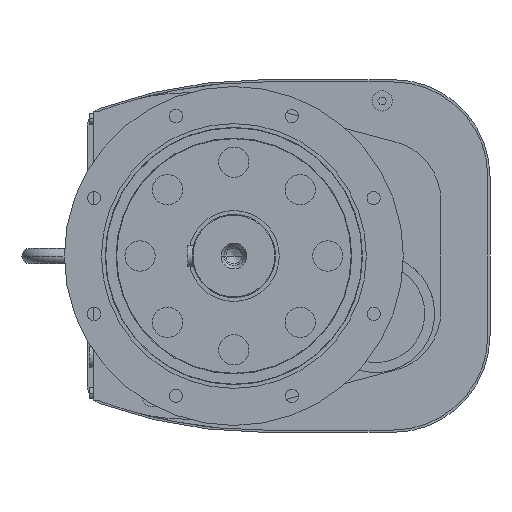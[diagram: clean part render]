
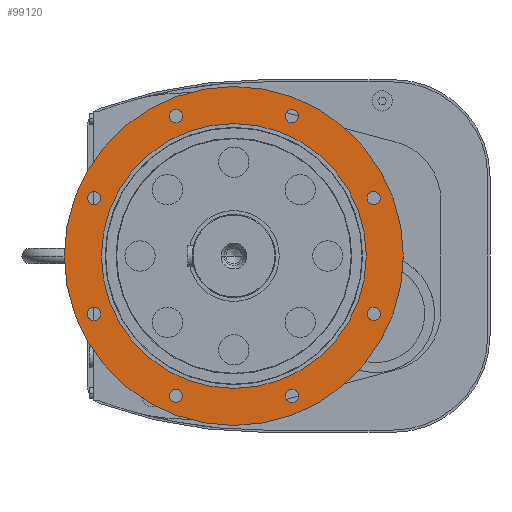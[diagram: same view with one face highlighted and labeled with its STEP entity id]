
A CAD part, left-side view. The second image highlights one B-rep face of the part: STEP entity #99120.
In plain terms, the highlighted planar face has unit normal (-1, 0, 0).
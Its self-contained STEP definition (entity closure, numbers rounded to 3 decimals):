
#92820=CARTESIAN_POINT('',(0.,-76.537,-176.026));
#92830=VERTEX_POINT('',#92820);
#92990=CARTESIAN_POINT('',(0.,-76.537,-193.526));
#93000=VERTEX_POINT('',#92990);
#93030=CARTESIAN_POINT('',(0.,-76.537,-184.776));
#93040=DIRECTION('',(-1.,0.,0.));
#93050=DIRECTION('',(0.,0.,-1.));
#93060=AXIS2_PLACEMENT_3D('',#93030,#93040,#93050);
#93070=CIRCLE('',#93060,8.75);
#93080=EDGE_CURVE('',#92830,#93000,#93070,.T.);
#93220=CARTESIAN_POINT('',(0.,0.,-175.));
#93230=VERTEX_POINT('',#93220);
#93280=CARTESIAN_POINT('',(0.,0.,0.));
#93290=DIRECTION('',(-1.,0.,0.));
#93300=DIRECTION('',(0.,0.,-1.));
#93310=AXIS2_PLACEMENT_3D('',#93280,#93290,#93300);
#93320=CIRCLE('',#93310,175.);
#93330=CARTESIAN_POINT('',(0.,0.,175.));
#93340=VERTEX_POINT('',#93330);
#93350=EDGE_CURVE('',#93340,#93230,#93320,.T.);
#93660=CARTESIAN_POINT('',(0.,-70.35,178.589));
#93670=VERTEX_POINT('',#93660);
#93830=CARTESIAN_POINT('',(0.,-82.724,190.963));
#93840=VERTEX_POINT('',#93830);
#93870=CARTESIAN_POINT('',(0.,-76.537,184.776));
#93880=DIRECTION('',(-1.,0.,0.));
#93890=DIRECTION('',(0.,-0.707,0.707));
#93900=AXIS2_PLACEMENT_3D('',#93870,#93880,#93890);
#93910=CIRCLE('',#93900,8.75);
#93920=EDGE_CURVE('',#93670,#93840,#93910,.T.);
#95420=CARTESIAN_POINT('',(0.,-223.965,0.));
#95430=VERTEX_POINT('',#95420);
#95510=CARTESIAN_POINT('',(0.,223.965,0.));
#95520=VERTEX_POINT('',#95510);
#95550=CARTESIAN_POINT('',(0.,0.,0.));
#95560=DIRECTION('',(-1.,0.,0.));
#95570=DIRECTION('',(0.,-1.,0.));
#95580=AXIS2_PLACEMENT_3D('',#95550,#95560,#95570);
#95590=CIRCLE('',#95580,223.965);
#95600=EDGE_CURVE('',#95520,#95430,#95590,.T.);
#95740=CARTESIAN_POINT('',(0.,-176.026,76.537));
#95750=VERTEX_POINT('',#95740);
#95830=CARTESIAN_POINT('',(0.,-193.526,76.537));
#95840=VERTEX_POINT('',#95830);
#95870=CARTESIAN_POINT('',(0.,-184.776,76.537));
#95880=DIRECTION('',(-1.,0.,0.));
#95890=DIRECTION('',(0.,-1.,0.));
#95900=AXIS2_PLACEMENT_3D('',#95870,#95880,#95890);
#95910=CIRCLE('',#95900,8.75);
#95920=EDGE_CURVE('',#95750,#95840,#95910,.T.);
#98070=CARTESIAN_POINT('',(0.,0.,204.13));
#98080=DIRECTION('',(-1.,-0.,-0.));
#98090=DIRECTION('',(0.,0.,-1.));
#98100=AXIS2_PLACEMENT_3D('',#98070,#98080,#98090);
#98110=PLANE('',#98100);
#98120=CARTESIAN_POINT('',(0.,76.537,184.776));
#98130=DIRECTION('',(-1.,0.,0.));
#98140=DIRECTION('',(0.,0.,1.));
#98150=AXIS2_PLACEMENT_3D('',#98120,#98130,#98140);
#98160=CIRCLE('',#98150,8.75);
#98170=CARTESIAN_POINT('',(0.,76.537,193.526));
#98180=VERTEX_POINT('',#98170);
#98190=CARTESIAN_POINT('',(0.,76.537,176.026));
#98200=VERTEX_POINT('',#98190);
#98210=EDGE_CURVE('',#98180,#98200,#98160,.T.);
#98220=ORIENTED_EDGE('',*,*,#98210,.F.);
#98230=EDGE_CURVE('',#98200,#98180,#98160,.T.);
#98240=ORIENTED_EDGE('',*,*,#98230,.F.);
#98250=EDGE_LOOP('',(#98240,#98220));
#98260=FACE_BOUND('',#98250,.T.);
#98270=CARTESIAN_POINT('',(0.,184.776,-76.537));
#98280=DIRECTION('',(-1.,0.,0.));
#98290=DIRECTION('',(0.,1.,0.));
#98300=AXIS2_PLACEMENT_3D('',#98270,#98280,#98290);
#98310=CIRCLE('',#98300,8.75);
#98320=CARTESIAN_POINT('',(0.,193.526,-76.537));
#98330=VERTEX_POINT('',#98320);
#98340=CARTESIAN_POINT('',(0.,176.026,-76.537));
#98350=VERTEX_POINT('',#98340);
#98360=EDGE_CURVE('',#98330,#98350,#98310,.T.);
#98370=ORIENTED_EDGE('',*,*,#98360,.F.);
#98380=EDGE_CURVE('',#98350,#98330,#98310,.T.);
#98390=ORIENTED_EDGE('',*,*,#98380,.F.);
#98400=EDGE_LOOP('',(#98390,#98370));
#98410=FACE_BOUND('',#98400,.T.);
#98420=EDGE_CURVE('',#93000,#92830,#93070,.T.);
#98430=ORIENTED_EDGE('',*,*,#98420,.F.);
#98440=ORIENTED_EDGE('',*,*,#93080,.F.);
#98450=EDGE_LOOP('',(#98440,#98430));
#98460=FACE_BOUND('',#98450,.T.);
#98470=CARTESIAN_POINT('',(0.,184.776,76.537));
#98480=DIRECTION('',(-1.,0.,0.));
#98490=DIRECTION('',(0.,0.707,0.707));
#98500=AXIS2_PLACEMENT_3D('',#98470,#98480,#98490);
#98510=CIRCLE('',#98500,8.75);
#98520=CARTESIAN_POINT('',(0.,190.963,82.724));
#98530=VERTEX_POINT('',#98520);
#98540=CARTESIAN_POINT('',(0.,178.589,70.35));
#98550=VERTEX_POINT('',#98540);
#98560=EDGE_CURVE('',#98530,#98550,#98510,.T.);
#98570=ORIENTED_EDGE('',*,*,#98560,.F.);
#98580=EDGE_CURVE('',#98550,#98530,#98510,.T.);
#98590=ORIENTED_EDGE('',*,*,#98580,.F.);
#98600=EDGE_LOOP('',(#98590,#98570));
#98610=FACE_BOUND('',#98600,.T.);
#98620=EDGE_CURVE('',#95840,#95750,#95910,.T.);
#98630=ORIENTED_EDGE('',*,*,#98620,.F.);
#98640=ORIENTED_EDGE('',*,*,#95920,.F.);
#98650=EDGE_LOOP('',(#98640,#98630));
#98660=FACE_BOUND('',#98650,.T.);
#98670=ORIENTED_EDGE('',*,*,#93350,.F.);
#98680=EDGE_CURVE('',#93230,#93340,#93320,.T.);
#98690=ORIENTED_EDGE('',*,*,#98680,.F.);
#98700=EDGE_LOOP('',(#98690,#98670));
#98710=FACE_BOUND('',#98700,.T.);
#98720=CARTESIAN_POINT('',(0.,-184.776,-76.537));
#98730=DIRECTION('',(-1.,0.,0.));
#98740=DIRECTION('',(0.,-0.707,-0.707));
#98750=AXIS2_PLACEMENT_3D('',#98720,#98730,#98740);
#98760=CIRCLE('',#98750,8.75);
#98770=CARTESIAN_POINT('',(0.,-190.963,-82.724));
#98780=VERTEX_POINT('',#98770);
#98790=CARTESIAN_POINT('',(0.,-178.589,-70.35));
#98800=VERTEX_POINT('',#98790);
#98810=EDGE_CURVE('',#98780,#98800,#98760,.T.);
#98820=ORIENTED_EDGE('',*,*,#98810,.F.);
#98830=EDGE_CURVE('',#98800,#98780,#98760,.T.);
#98840=ORIENTED_EDGE('',*,*,#98830,.F.);
#98850=EDGE_LOOP('',(#98840,#98820));
#98860=FACE_BOUND('',#98850,.T.);
#98870=EDGE_CURVE('',#93840,#93670,#93910,.T.);
#98880=ORIENTED_EDGE('',*,*,#98870,.F.);
#98890=ORIENTED_EDGE('',*,*,#93920,.F.);
#98900=EDGE_LOOP('',(#98890,#98880));
#98910=FACE_BOUND('',#98900,.T.);
#98920=CARTESIAN_POINT('',(0.,76.537,-184.776));
#98930=DIRECTION('',(-1.,0.,0.));
#98940=DIRECTION('',(0.,0.707,-0.707));
#98950=AXIS2_PLACEMENT_3D('',#98920,#98930,#98940);
#98960=CIRCLE('',#98950,8.75);
#98970=CARTESIAN_POINT('',(0.,82.724,-190.963));
#98980=VERTEX_POINT('',#98970);
#98990=CARTESIAN_POINT('',(0.,70.35,-178.589));
#99000=VERTEX_POINT('',#98990);
#99010=EDGE_CURVE('',#98980,#99000,#98960,.T.);
#99020=ORIENTED_EDGE('',*,*,#99010,.F.);
#99030=EDGE_CURVE('',#99000,#98980,#98960,.T.);
#99040=ORIENTED_EDGE('',*,*,#99030,.F.);
#99050=EDGE_LOOP('',(#99040,#99020));
#99060=FACE_BOUND('',#99050,.T.);
#99070=EDGE_CURVE('',#95430,#95520,#95590,.T.);
#99080=ORIENTED_EDGE('',*,*,#99070,.T.);
#99090=ORIENTED_EDGE('',*,*,#95600,.T.);
#99100=EDGE_LOOP('',(#99090,#99080));
#99110=FACE_OUTER_BOUND('',#99100,.T.);
#99120=ADVANCED_FACE('',(#98260,#98410,#98460,#98610,#98660,#98710,#98860,#98910,#99060,#99110),#98110,.T.);
